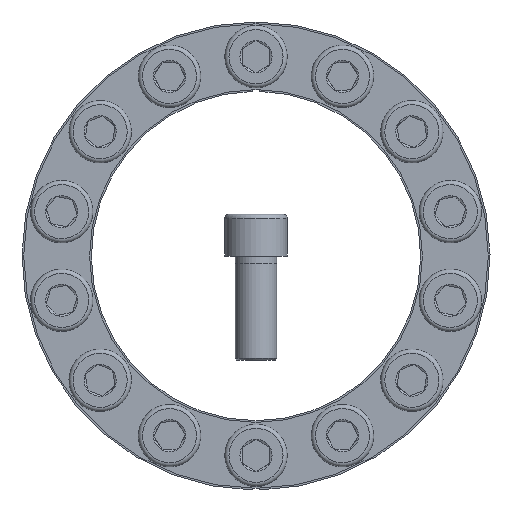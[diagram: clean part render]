
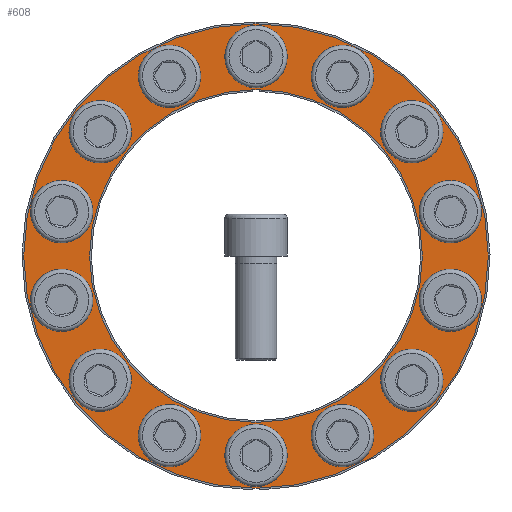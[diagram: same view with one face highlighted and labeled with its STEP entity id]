
A CAD part, front view. The second image highlights one B-rep face of the part: STEP entity #608.
In plain terms, the highlighted planar face has unit normal (0, -1, 0).
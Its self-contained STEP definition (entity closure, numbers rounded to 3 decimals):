
#608 = ADVANCED_FACE( '', ( #1164, #1165, #1166, #1167, #1168, #1169, #1170, #1171, #1172, #1173, #1174, #1175, #1176, #1177, #1178, #1179 ), #1180, .T. );
#1164 = FACE_BOUND( '', #2157, .T. );
#1165 = FACE_BOUND( '', #2158, .T. );
#1166 = FACE_BOUND( '', #2159, .T. );
#1167 = FACE_BOUND( '', #2160, .T. );
#1168 = FACE_BOUND( '', #2161, .T. );
#1169 = FACE_BOUND( '', #2162, .T. );
#1170 = FACE_BOUND( '', #2163, .T. );
#1171 = FACE_BOUND( '', #2164, .T. );
#1172 = FACE_BOUND( '', #2165, .T. );
#1173 = FACE_BOUND( '', #2166, .T. );
#1174 = FACE_BOUND( '', #2167, .T. );
#1175 = FACE_BOUND( '', #2168, .T. );
#1176 = FACE_BOUND( '', #2169, .T. );
#1177 = FACE_BOUND( '', #2170, .T. );
#1178 = FACE_BOUND( '', #2171, .T. );
#1179 = FACE_OUTER_BOUND( '', #2172, .T. );
#1180 = PLANE( '', #2173 );
#2157 = EDGE_LOOP( '', ( #3175 ) );
#2158 = EDGE_LOOP( '', ( #3176 ) );
#2159 = EDGE_LOOP( '', ( #3177 ) );
#2160 = EDGE_LOOP( '', ( #3178 ) );
#2161 = EDGE_LOOP( '', ( #3179 ) );
#2162 = EDGE_LOOP( '', ( #3180 ) );
#2163 = EDGE_LOOP( '', ( #3181 ) );
#2164 = EDGE_LOOP( '', ( #3182 ) );
#2165 = EDGE_LOOP( '', ( #3183 ) );
#2166 = EDGE_LOOP( '', ( #3184 ) );
#2167 = EDGE_LOOP( '', ( #3185 ) );
#2168 = EDGE_LOOP( '', ( #3186 ) );
#2169 = EDGE_LOOP( '', ( #3187 ) );
#2170 = EDGE_LOOP( '', ( #3188 ) );
#2171 = EDGE_LOOP( '', ( #3189 ) );
#2172 = EDGE_LOOP( '', ( #3190 ) );
#2173 = AXIS2_PLACEMENT_3D( '', #3191, #3192, #3193 );
#3175 = ORIENTED_EDGE( '', *, *, #5506, .T. );
#3176 = ORIENTED_EDGE( '', *, *, #5507, .T. );
#3177 = ORIENTED_EDGE( '', *, *, #5508, .T. );
#3178 = ORIENTED_EDGE( '', *, *, #5509, .T. );
#3179 = ORIENTED_EDGE( '', *, *, #5510, .T. );
#3180 = ORIENTED_EDGE( '', *, *, #5511, .T. );
#3181 = ORIENTED_EDGE( '', *, *, #5512, .T. );
#3182 = ORIENTED_EDGE( '', *, *, #5513, .T. );
#3183 = ORIENTED_EDGE( '', *, *, #5514, .T. );
#3184 = ORIENTED_EDGE( '', *, *, #5515, .T. );
#3185 = ORIENTED_EDGE( '', *, *, #5516, .T. );
#3186 = ORIENTED_EDGE( '', *, *, #5517, .T. );
#3187 = ORIENTED_EDGE( '', *, *, #5518, .T. );
#3188 = ORIENTED_EDGE( '', *, *, #5519, .T. );
#3189 = ORIENTED_EDGE( '', *, *, #5520, .F. );
#3190 = ORIENTED_EDGE( '', *, *, #5521, .T. );
#3191 = CARTESIAN_POINT( '', ( 0., -14., -67.5 ) );
#3192 = DIRECTION( '', ( 0., -1., 0. ) );
#3193 = DIRECTION( '', ( 0., 0., -1. ) );
#5506 = EDGE_CURVE( '', #6128, #6128, #6129, .T. );
#5507 = EDGE_CURVE( '', #6130, #6130, #6131, .T. );
#5508 = EDGE_CURVE( '', #6132, #6132, #6133, .T. );
#5509 = EDGE_CURVE( '', #6134, #6134, #6135, .T. );
#5510 = EDGE_CURVE( '', #6136, #6136, #6137, .T. );
#5511 = EDGE_CURVE( '', #6138, #6138, #6139, .T. );
#5512 = EDGE_CURVE( '', #6140, #6140, #6141, .T. );
#5513 = EDGE_CURVE( '', #6142, #6142, #6143, .T. );
#5514 = EDGE_CURVE( '', #6144, #6144, #6145, .T. );
#5515 = EDGE_CURVE( '', #6146, #6146, #6147, .T. );
#5516 = EDGE_CURVE( '', #6148, #6148, #6149, .T. );
#5517 = EDGE_CURVE( '', #6150, #6150, #6151, .T. );
#5518 = EDGE_CURVE( '', #6152, #6152, #6153, .T. );
#5519 = EDGE_CURVE( '', #6154, #6154, #6155, .T. );
#5520 = EDGE_CURVE( '', #6156, #6156, #6157, .T. );
#5521 = EDGE_CURVE( '', #6158, #6158, #6159, .T. );
#6128 = VERTEX_POINT( '', #7038 );
#6129 = CIRCLE( '', #7039, 6. );
#6130 = VERTEX_POINT( '', #7040 );
#6131 = CIRCLE( '', #7041, 6. );
#6132 = VERTEX_POINT( '', #7042 );
#6133 = CIRCLE( '', #7043, 6. );
#6134 = VERTEX_POINT( '', #7044 );
#6135 = CIRCLE( '', #7045, 6. );
#6136 = VERTEX_POINT( '', #7046 );
#6137 = CIRCLE( '', #7047, 6. );
#6138 = VERTEX_POINT( '', #7048 );
#6139 = CIRCLE( '', #7049, 6. );
#6140 = VERTEX_POINT( '', #7050 );
#6141 = CIRCLE( '', #7051, 6. );
#6142 = VERTEX_POINT( '', #7052 );
#6143 = CIRCLE( '', #7053, 6. );
#6144 = VERTEX_POINT( '', #7054 );
#6145 = CIRCLE( '', #7055, 6. );
#6146 = VERTEX_POINT( '', #7056 );
#6147 = CIRCLE( '', #7057, 6. );
#6148 = VERTEX_POINT( '', #7058 );
#6149 = CIRCLE( '', #7059, 6. );
#6150 = VERTEX_POINT( '', #7060 );
#6151 = CIRCLE( '', #7061, 6. );
#6152 = VERTEX_POINT( '', #7062 );
#6153 = CIRCLE( '', #7063, 6. );
#6154 = VERTEX_POINT( '', #7064 );
#6155 = CIRCLE( '', #7065, 6. );
#6156 = VERTEX_POINT( '', #7066 );
#6157 = CIRCLE( '', #7067, 48. );
#6158 = VERTEX_POINT( '', #7068 );
#6159 = CIRCLE( '', #7069, 67. );
#7038 = CARTESIAN_POINT( '', ( -24.948, -14., 45.806 ) );
#7039 = AXIS2_PLACEMENT_3D( '', #8758, #8759, #8760 );
#7040 = CARTESIAN_POINT( '', ( -44.955, -14., 29.851 ) );
#7041 = AXIS2_PLACEMENT_3D( '', #8761, #8762, #8763 );
#7042 = CARTESIAN_POINT( '', ( -56.058, -14., 6.795 ) );
#7043 = AXIS2_PLACEMENT_3D( '', #8764, #8765, #8766 );
#7044 = CARTESIAN_POINT( '', ( -56.058, -14., -18.795 ) );
#7045 = AXIS2_PLACEMENT_3D( '', #8767, #8768, #8769 );
#7046 = CARTESIAN_POINT( '', ( -44.955, -14., -41.851 ) );
#7047 = AXIS2_PLACEMENT_3D( '', #8770, #8771, #8772 );
#7048 = CARTESIAN_POINT( '', ( -24.948, -14., -57.806 ) );
#7049 = AXIS2_PLACEMENT_3D( '', #8773, #8774, #8775 );
#7050 = CARTESIAN_POINT( '', ( 0., -14., -63.5 ) );
#7051 = AXIS2_PLACEMENT_3D( '', #8776, #8777, #8778 );
#7052 = CARTESIAN_POINT( '', ( 24.948, -14., -57.806 ) );
#7053 = AXIS2_PLACEMENT_3D( '', #8779, #8780, #8781 );
#7054 = CARTESIAN_POINT( '', ( 44.955, -14., -41.851 ) );
#7055 = AXIS2_PLACEMENT_3D( '', #8782, #8783, #8784 );
#7056 = CARTESIAN_POINT( '', ( 62.058, -14., -12.795 ) );
#7057 = AXIS2_PLACEMENT_3D( '', #8785, #8786, #8787 );
#7058 = CARTESIAN_POINT( '', ( 62.058, -14., 12.795 ) );
#7059 = AXIS2_PLACEMENT_3D( '', #8788, #8789, #8790 );
#7060 = CARTESIAN_POINT( '', ( 44.955, -14., 29.851 ) );
#7061 = AXIS2_PLACEMENT_3D( '', #8791, #8792, #8793 );
#7062 = CARTESIAN_POINT( '', ( 24.948, -14., 45.806 ) );
#7063 = AXIS2_PLACEMENT_3D( '', #8794, #8795, #8796 );
#7064 = CARTESIAN_POINT( '', ( 0., -14., 51.5 ) );
#7065 = AXIS2_PLACEMENT_3D( '', #8797, #8798, #8799 );
#7066 = CARTESIAN_POINT( '', ( 0., -14., -48. ) );
#7067 = AXIS2_PLACEMENT_3D( '', #8800, #8801, #8802 );
#7068 = CARTESIAN_POINT( '', ( 0., -14., -67. ) );
#7069 = AXIS2_PLACEMENT_3D( '', #8803, #8804, #8805 );
#8758 = CARTESIAN_POINT( '', ( -24.948, -14., 51.806 ) );
#8759 = DIRECTION( '', ( 0., 1., 0. ) );
#8760 = DIRECTION( '', ( 0., 0., -1. ) );
#8761 = CARTESIAN_POINT( '', ( -44.955, -14., 35.851 ) );
#8762 = DIRECTION( '', ( 0., 1., 0. ) );
#8763 = DIRECTION( '', ( 0., 0., -1. ) );
#8764 = CARTESIAN_POINT( '', ( -56.058, -14., 12.795 ) );
#8765 = DIRECTION( '', ( 0., 1., 0. ) );
#8766 = DIRECTION( '', ( 0., 0., -1. ) );
#8767 = CARTESIAN_POINT( '', ( -56.058, -14., -12.795 ) );
#8768 = DIRECTION( '', ( 0., 1., 0. ) );
#8769 = DIRECTION( '', ( 0., 0., -1. ) );
#8770 = CARTESIAN_POINT( '', ( -44.955, -14., -35.851 ) );
#8771 = DIRECTION( '', ( 0., 1., 0. ) );
#8772 = DIRECTION( '', ( 0., 0., -1. ) );
#8773 = CARTESIAN_POINT( '', ( -24.948, -14., -51.806 ) );
#8774 = DIRECTION( '', ( 0., 1., 0. ) );
#8775 = DIRECTION( '', ( 0., 0., -1. ) );
#8776 = CARTESIAN_POINT( '', ( 0., -14., -57.5 ) );
#8777 = DIRECTION( '', ( 0., 1., 0. ) );
#8778 = DIRECTION( '', ( 0., 0., -1. ) );
#8779 = CARTESIAN_POINT( '', ( 24.948, -14., -51.806 ) );
#8780 = DIRECTION( '', ( 0., 1., 0. ) );
#8781 = DIRECTION( '', ( 0., 0., -1. ) );
#8782 = CARTESIAN_POINT( '', ( 44.955, -14., -35.851 ) );
#8783 = DIRECTION( '', ( 0., 1., 0. ) );
#8784 = DIRECTION( '', ( 0., 0., -1. ) );
#8785 = CARTESIAN_POINT( '', ( 56.058, -14., -12.795 ) );
#8786 = DIRECTION( '', ( 0., 1., 0. ) );
#8787 = DIRECTION( '', ( 1., 0., 0. ) );
#8788 = CARTESIAN_POINT( '', ( 56.058, -14., 12.795 ) );
#8789 = DIRECTION( '', ( 0., 1., 0. ) );
#8790 = DIRECTION( '', ( 1., 0., 0. ) );
#8791 = CARTESIAN_POINT( '', ( 44.955, -14., 35.851 ) );
#8792 = DIRECTION( '', ( 0., 1., 0. ) );
#8793 = DIRECTION( '', ( 0., 0., -1. ) );
#8794 = CARTESIAN_POINT( '', ( 24.948, -14., 51.806 ) );
#8795 = DIRECTION( '', ( 0., 1., 0. ) );
#8796 = DIRECTION( '', ( 0., 0., -1. ) );
#8797 = CARTESIAN_POINT( '', ( 0., -14., 57.5 ) );
#8798 = DIRECTION( '', ( 0., 1., 0. ) );
#8799 = DIRECTION( '', ( 0., 0., -1. ) );
#8800 = CARTESIAN_POINT( '', ( 0., -14., 0. ) );
#8801 = DIRECTION( '', ( 0., -1., 0. ) );
#8802 = DIRECTION( '', ( 0., 0., -1. ) );
#8803 = CARTESIAN_POINT( '', ( 0., -14., 0. ) );
#8804 = DIRECTION( '', ( 0., -1., 0. ) );
#8805 = DIRECTION( '', ( 0., 0., -1. ) );
